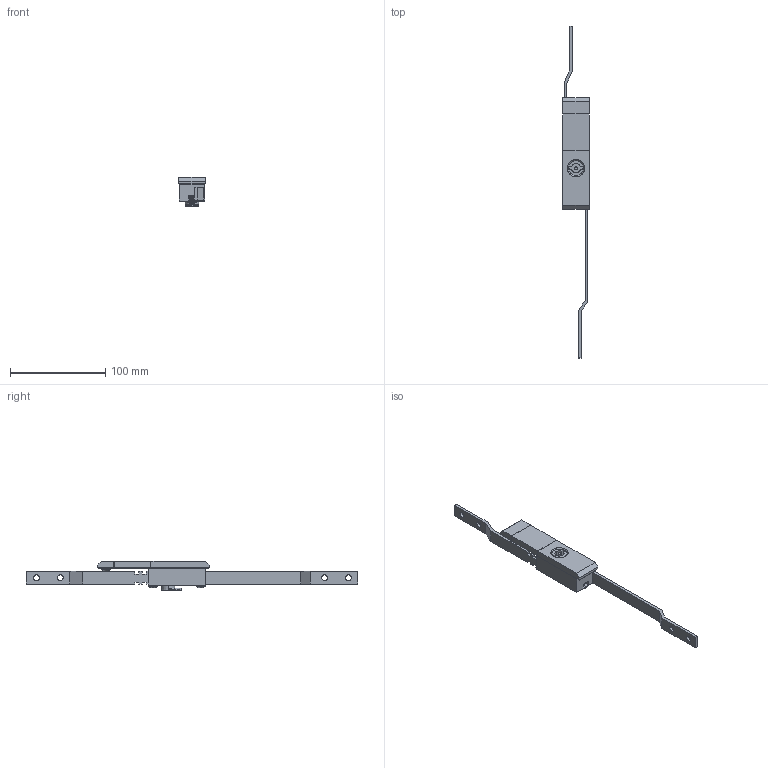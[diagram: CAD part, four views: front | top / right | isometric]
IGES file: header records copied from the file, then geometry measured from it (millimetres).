
Start section: SolidWorks IGES file using analytic representation for surfaces
Global section: file name: D:\尚坤工业图纸\SK1--门锁系列\SK1-821\SK1-821.IGS; native system: SolidWorks 2015; preprocessor: SolidWorks 2015; author: admin; date: 181101.112238; units: millimetre
Bounding box: 28 x 348 x 31 mm (x, y, z)
Surface area: 25174.5 mm2 (no closed solid volume)
Topology: 0 solids, 0 shells, 305 faces, 3945 edges, 3937 vertices
Faces by surface type: bspline 181, revolution 124
